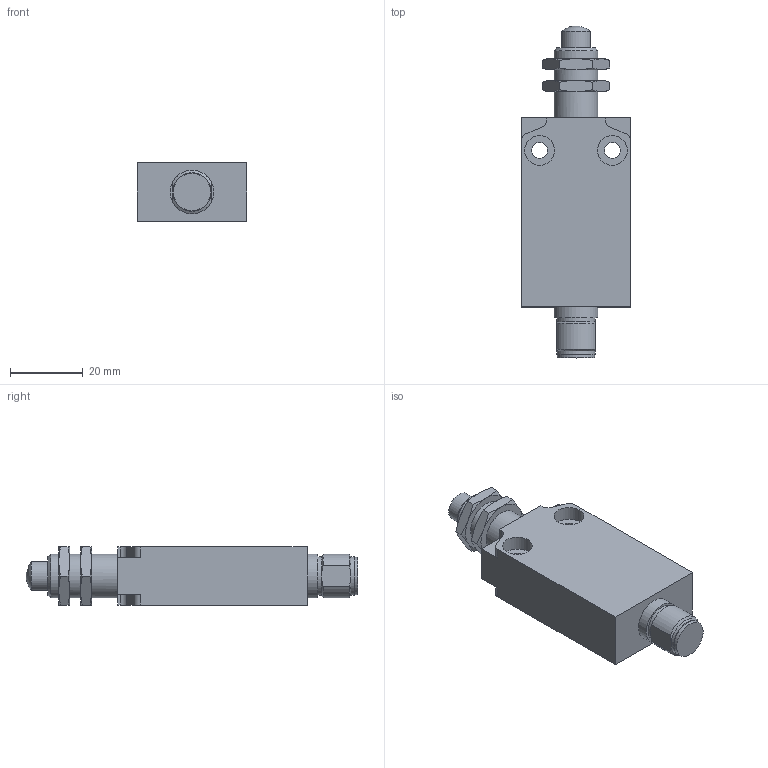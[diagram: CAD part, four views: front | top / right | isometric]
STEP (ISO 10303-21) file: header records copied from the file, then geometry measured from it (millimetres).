
FILE_DESCRIPTION(/* description */ (''),/* implementation_level */ '2;1');
FILE_NAME(/* name */ 'C:\Users\servizio.tecnico\Desktop\BERNSTEIN\3D\STP_EM1_G2101MC.stp',/* time_stamp */ '2020-06-26T10:11:56+02:00',/* author */ ('servizio.tecnico'),/* organization */ (''),/* preprocessor_version */ 'ST-DEVELOPER v17',/* originating_system */ 'Autodesk Inventor 2019',/* authorisation */ '');
FILE_SCHEMA (('AUTOMOTIVE_DESIGN { 1 0 10303 214 3 1 1 }'));
Length unit declared in the file: millimetre
Products named in the file (5): STP_EM1_G21M; EM1G21-M; Product; MC; Product_1
Assembly tree (4 placements, depth 3):
  STP_EM1_G21M
    EM1G21-M
      Product
    MC
      Product_1
Bounding box: 30 x 91.2 x 16 mm (x, y, z)
Volume: 27817.4 mm3; surface area: 10593.1 mm2
Topology: 6 solids, 6 shells, 128 faces, 299 edges, 190 vertices
Faces by surface type: plane 61, cylinder 33, cone 33, sphere 1
Full cylindrical faces by diameter (mm): 4.4 x2, 7.95 x1, 8.05 x1, 8.2 x4, 10.3 x1, 10.6 x2, 12 x4
Entity records: 3822 total; most frequent: CARTESIAN_POINT 753, DIRECTION 618, ORIENTED_EDGE 596, EDGE_CURVE 298, AXIS2_PLACEMENT_3D 247, VERTEX_POINT 190, EDGE_LOOP 144, FACE_OUTER_BOUND 128
